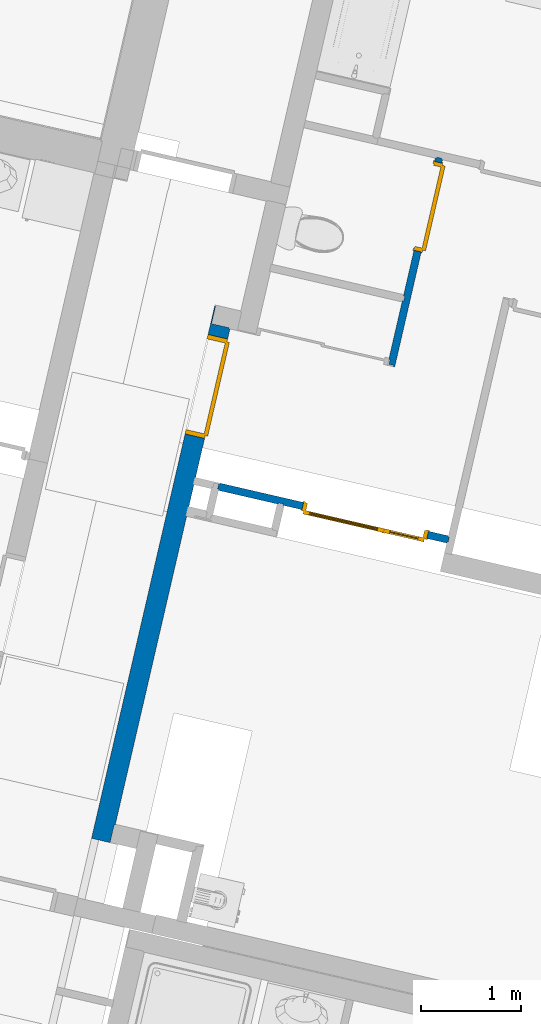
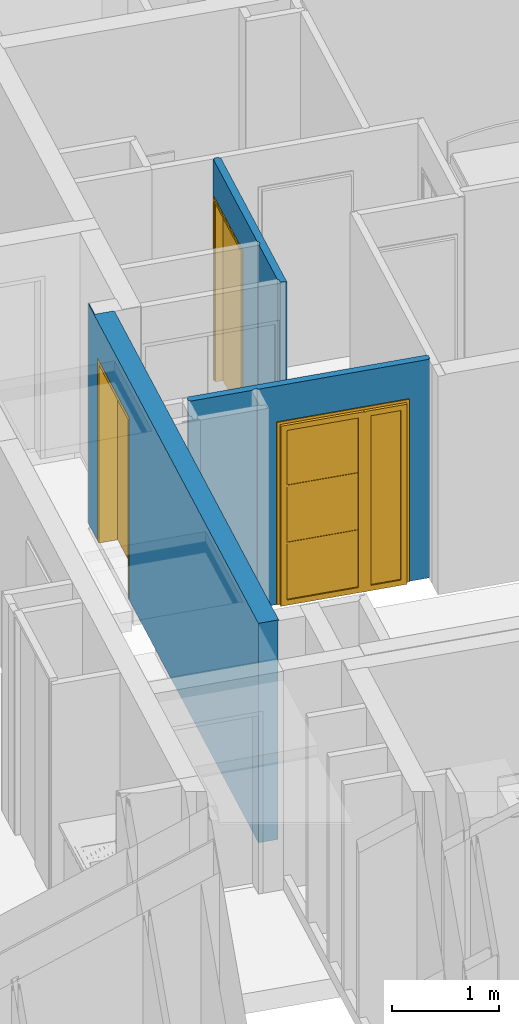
# One storey, part 27 of 119: 3 doors, 3 walls, 3 openings.
"""IFC2X3 building model written with IfcOpenShell, lengths in metres."""

from ifc_helpers import new_model, entity, si_unit, converted_unit, derived_unit, money_unit, direction, frame, origin_with_axes, place, context, subcontext, project, spatial, faceted_brep, source, transform, mapped, material, material_list, type_object, element, fill, save


model = new_model("IFC2X3")

# Units and contexts
model_context = context("Model", 3, precision=1e-05, world=origin_with_axes(), true_north=direction((0.0, 1.0)))
body_context = subcontext(model_context, "Body", "Model", "MODEL_VIEW")
ifc_project = project(units=[si_unit("LENGTHUNIT", "METRE"), si_unit("AREAUNIT", "SQUARE_METRE"), si_unit("VOLUMEUNIT", "CUBIC_METRE"), converted_unit("PLANEANGLEUNIT", "DEGREE", entity("IfcPlaneAngleMeasure", 0.0174532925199), si_unit("PLANEANGLEUNIT", "RADIAN"), dimensions=[0, 0, 0, 0, 0, 0, 0]), si_unit("SOLIDANGLEUNIT", "STERADIAN"), money_unit("EUR"), converted_unit("TIMEUNIT", "Year", entity("IfcTimeMeasure", 31556926.0), si_unit("TIMEUNIT", "SECOND"), dimensions=[0, 0, 1, 0, 0, 0, 0]), si_unit("MASSUNIT", "GRAM", prefix="KILO"), si_unit("THERMODYNAMICTEMPERATUREUNIT", "DEGREE_CELSIUS"), si_unit("LUMINOUSINTENSITYUNIT", "LUMEN"), si_unit("ENERGYUNIT", "JOULE", prefix="MEGA"), derived_unit("THERMALCONDUCTANCEUNIT", [(si_unit("POWERUNIT", "WATT"), 1), (si_unit("LENGTHUNIT", "METRE"), -1), (si_unit("THERMODYNAMICTEMPERATUREUNIT", "KELVIN"), -1)]), derived_unit("SPECIFICHEATCAPACITYUNIT", [(si_unit("ENERGYUNIT", "JOULE"), 1), (si_unit("MASSUNIT", "GRAM", prefix="KILO"), -1), (si_unit("THERMODYNAMICTEMPERATUREUNIT", "KELVIN"), -1)]), derived_unit("MASSDENSITYUNIT", [(si_unit("MASSUNIT", "GRAM", prefix="KILO"), 1), (si_unit("VOLUMEUNIT", "CUBIC_METRE"), -1)])], contexts=[model_context])

# Site, building, storey
site_placement = place(None, origin_with_axes())
site = spatial("IfcSite", under=ifc_project, at=site_placement, Name="Site", CompositionType="ELEMENT")
building_placement = place(site_placement, origin_with_axes())
building = spatial("IfcBuilding", under=site, at=building_placement, Name="Bâtiment", CompositionType="ELEMENT")
storey_placement = place(building_placement, origin_with_axes())
storey = spatial("IfcBuildingStorey", under=building, at=storey_placement, Name="Rez-de-chaussée", CompositionType="ELEMENT", Elevation=0.0)

# Wall, opening, door
ifc_material_1 = material(Name="Finition int - Plaque de plâtre")
ifc_material_2 = material(Name="Isolation - Laine de roche")
ifc_material_list_1 = material_list([ifc_material_1, ifc_material_2, ifc_material_1])
wall_type_1 = type_object("IfcWallType", Name="3 - Cloison 72mm Placostil 74", PredefinedType="USERDEFINED")
wall_1_placement = place(storey_placement, frame((-7.0248799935, 8.30326196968, 0.0), z_axis=(0.0, 0.0, 1.0), x_axis=(0.974387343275, -0.224876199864, 0.0)))
wall_1 = element("IfcWall", 1, at=wall_1_placement, inside=storey, type_object=wall_type_1, material=ifc_material_list_1, Name="Cloison Placostil 72/48", ObjectType="PARTITIONING", context=body_context, shape_type="Brep", body=[
    faceted_brep([(0.855399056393, 0.074, 2.08), (0.855399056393, 0.074, 0.0), (0.0, 0.074, 0.0), (0.0, 0.074, 2.5), (2.33936525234, 0.074, 2.5), (2.33936525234, 0.074, 0.0), (2.13539905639, 0.074, 0.0), (2.13539905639, 0.074, 2.08), (0.855399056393, 0.061, 2.08), (0.855399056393, 0.061, 0.0), (0.0, 0.061, 0.0), (0.0, 0.061, 2.5), (2.33936525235, 0.061, 2.5), (2.33936525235, 0.061, 0.0), (2.13539905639, 0.061, 0.0), (2.13539905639, 0.061, 2.08)], [[[0, 1, 2, 3, 4, 5, 6, 7]], [[1, 0, 8, 9]], [[1, 9, 10, 2]], [[11, 3, 2, 10]], [[3, 11, 12, 4]], [[12, 13, 5, 4]], [[14, 6, 5, 13]], [[7, 6, 14, 15]], [[0, 7, 15, 8]], [[15, 14, 13, 12, 11, 10, 9, 8]]]),
    faceted_brep([(0.855399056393, 0.061, 2.08), (0.855399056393, 0.0610000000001, 0.0), (-0.013000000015, 0.0610000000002, 0.0), (-0.013000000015, 0.0610000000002, 2.5), (2.35236525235, 0.061, 2.5), (2.35236525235, 0.061, 0.0), (2.13539905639, 0.061, 0.0), (2.13539905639, 0.061, 2.08), (0.855399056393, 0.013, 2.08), (0.855399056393, 0.013, 0.0), (-0.0130000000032, 0.013, 0.0), (-0.0130000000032, 0.013, 2.5), (2.35236525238, 0.013, 2.5), (2.35236525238, 0.013, 0.0), (2.13539905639, 0.013, 0.0), (2.13539905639, 0.013, 2.08)], [[[0, 1, 2, 3, 4, 5, 6, 7]], [[1, 0, 8, 9]], [[1, 9, 10, 2]], [[11, 3, 2, 10]], [[3, 11, 12, 4]], [[12, 13, 5, 4]], [[14, 6, 5, 13]], [[7, 6, 14, 15]], [[0, 7, 15, 8]], [[15, 14, 13, 12, 11, 10, 9, 8]]]),
    faceted_brep([(0.612999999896, 0.013, 0.0), (0.0, 0.013, 0.0), (0.0, 0.013, 2.5), (0.612999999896, 0.013, 2.5), (0.612999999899, 0.0, 0.0), (0.0, 0.0, 0.0), (0.0, 0.0, 2.5), (0.612999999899, 0.0, 2.5)], [[[0, 1, 2, 3]], [[4, 5, 1, 0]], [[5, 6, 2, 1]], [[3, 2, 6, 7]], [[3, 7, 4, 0]], [[7, 6, 5, 4]]]),
    faceted_brep([(0.855399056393, 0.013, 2.08), (0.855399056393, 0.013, 0.0), (0.660999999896, 0.013, 0.0), (0.660999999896, 0.013, 2.5), (2.33936525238, 0.013, 2.5), (2.33936525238, 0.013, 0.0), (2.13539905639, 0.013, 0.0), (2.13539905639, 0.013, 2.08), (0.855399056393, 0.0, 2.08), (0.855399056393, 0.0, 0.0), (0.660999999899, 0.0, 0.0), (0.660999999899, 0.0, 2.5), (2.33936525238, 0.0, 2.5), (2.33936525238, 0.0, 0.0), (2.13539905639, 0.0, 0.0), (2.13539905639, 0.0, 2.08)], [[[0, 1, 2, 3, 4, 5, 6, 7]], [[1, 0, 8, 9]], [[1, 9, 10, 2]], [[10, 11, 3, 2]], [[11, 12, 4, 3]], [[13, 5, 4, 12]], [[14, 6, 5, 13]], [[7, 6, 14, 15]], [[0, 7, 15, 8]], [[15, 14, 13, 12, 11, 10, 9, 8]]]),
])
opening_1_placement = place(wall_1_placement, frame((1.49539905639, 0.0, 0.0), z_axis=(0.0, 0.0, 1.0), x_axis=(1.0, 0.0, 0.0)))
opening_1 = element("IfcOpeningElement", 2, at=opening_1_placement, cuts=wall_1, Name="Porte 120x204 bois alvéolaire", context=body_context, shape_type="Brep", body=[
    faceted_brep([(-0.64, 0.074, 0.0), (0.64, 0.074, 0.0), (0.64, -0.074, 0.0), (-0.64, -0.074, 0.0), (-0.64, 0.074, 2.08), (0.64, 0.074, 2.08), (0.64, -0.074, 2.08), (-0.64, -0.074, 2.08)], [[[0, 1, 2, 3]], [[0, 4, 5, 1]], [[1, 5, 6, 2]], [[3, 2, 6, 7]], [[4, 0, 3, 7]], [[5, 4, 7, 6]]]),
])
door_style_1 = type_object("IfcDoorStyle", Name="Porte int générique 2019", ConstructionType="NOTDEFINED", OperationType="DOUBLE_DOOR_SINGLE_SWING", ParameterTakesPrecedence=False, Sizeable=False)
shared_shape_1 = source(origin_with_axes(), body_context, "Body", "Brep", [
    faceted_brep([(0.64, -0.006, 0.0), (0.6, -0.006, 0.0), (0.6, -0.006, 2.04), (-0.6, -0.006, 2.04), (-0.6, -0.006, 0.0), (-0.64, -0.006, 0.0), (-0.64, -0.006, 2.08), (0.64, -0.006, 2.08), (0.64, -0.08, 0.0), (0.6, -0.08, 0.0), (0.6, -0.08, 2.04), (-0.6, -0.08, 2.04), (-0.6, -0.08, 0.0), (-0.64, -0.08, 0.0), (-0.64, -0.08, 2.08), (0.64, -0.08, 2.08)], [[[0, 1, 2, 3, 4, 5, 6, 7]], [[0, 8, 9, 1]], [[1, 9, 10, 2]], [[2, 10, 11, 3]], [[3, 11, 12, 4]], [[5, 4, 12, 13]], [[14, 6, 5, 13]], [[15, 7, 6, 14]], [[8, 0, 7, 15]], [[9, 8, 15, 14, 13, 12, 11, 10]]]),
    faceted_brep([(0.65, -0.006, 0.0), (0.65, 0.004, 0.0), (0.65, 0.004, 2.09), (0.65, -0.006, 2.09), (0.62, -0.006, 0.0), (0.62, 0.004, 0.0), (0.62, 0.004, 2.06), (-0.62, 0.004, 2.06), (-0.62, 0.004, 0.0), (-0.65, 0.004, 0.0), (-0.65, 0.004, 2.09), (-0.65, -0.006, 2.09), (-0.65, -0.006, 0.0), (-0.62, -0.006, 0.0), (-0.62, -0.006, 2.06), (0.62, -0.006, 2.06)], [[[0, 1, 2, 3]], [[0, 4, 5, 1]], [[1, 5, 6, 7, 8, 9, 10, 2]], [[3, 2, 10, 11]], [[4, 0, 3, 11, 12, 13, 14, 15]], [[5, 4, 15, 6]], [[6, 15, 14, 7]], [[7, 14, 13, 8]], [[12, 9, 8, 13]], [[11, 10, 9, 12]]]),
    faceted_brep([(0.65, -0.09, 0.0), (0.65, -0.08, 0.0), (0.65, -0.08, 2.09), (0.65, -0.09, 2.09), (0.62, -0.09, 0.0), (0.62, -0.08, 0.0), (0.62, -0.08, 2.06), (-0.62, -0.08, 2.06), (-0.62, -0.08, 0.0), (-0.65, -0.08, 0.0), (-0.65, -0.08, 2.09), (-0.65, -0.09, 2.09), (-0.65, -0.09, 0.0), (-0.62, -0.09, 0.0), (-0.62, -0.09, 2.06), (0.62, -0.09, 2.06)], [[[0, 1, 2, 3]], [[0, 4, 5, 1]], [[1, 5, 6, 7, 8, 9, 10, 2]], [[3, 2, 10, 11]], [[4, 0, 3, 11, 12, 13, 14, 15]], [[5, 4, 15, 6]], [[6, 15, 14, 7]], [[7, 14, 13, 8]], [[12, 9, 8, 13]], [[11, 10, 9, 12]]]),
    faceted_brep([(-0.6175, 0.024, 2.06), (-0.2025, 0.024, 2.06), (-0.2025, 0.024, 0.0), (-0.6175, 0.024, 0.0), (-0.5575, 0.024, 0.06), (-0.2625, 0.024, 0.06), (-0.2625, 0.024, 2.0), (-0.5575, 0.024, 2.0), (-0.6175, 0.014, 2.06), (-0.2025, 0.014, 2.06), (-0.2025, 0.014, 0.0), (-0.6175, 0.014, 0.0), (-0.5575, 0.014, 0.06), (-0.2625, 0.014, 0.06), (-0.2625, 0.014, 2.0), (-0.5575, 0.014, 2.0)], [[[0, 1, 2, 3], [4, 5, 6, 7]], [[0, 8, 9, 1]], [[1, 9, 10, 2]], [[2, 10, 11, 3]], [[3, 11, 8, 0]], [[12, 13, 5, 4]], [[13, 14, 6, 5]], [[14, 15, 7, 6]], [[15, 12, 4, 7]], [[10, 9, 8, 11], [12, 15, 14, 13]]]),
    faceted_brep([(-0.6175, 0.014, 2.06), (-0.2025, 0.014, 2.06), (-0.2025, 0.014, 0.0), (-0.6175, 0.014, 0.0), (-0.5575, 0.014, 0.06), (-0.2625, 0.014, 0.06), (-0.2625, 0.014, 2.0), (-0.5575, 0.014, 2.0), (-0.6175, 0.004, 2.06), (-0.2025, 0.004, 2.06), (-0.2025, 0.004, 0.0), (-0.6175, 0.004, 0.0), (-0.5575, 0.004, 0.06), (-0.2625, 0.004, 0.06), (-0.2625, 0.004, 2.0), (-0.5575, 0.004, 2.0)], [[[0, 1, 2, 3], [4, 5, 6, 7]], [[0, 8, 9, 1]], [[1, 9, 10, 2]], [[2, 10, 11, 3]], [[3, 11, 8, 0]], [[12, 13, 5, 4]], [[13, 14, 6, 5]], [[14, 15, 7, 6]], [[15, 12, 4, 7]], [[10, 9, 8, 11], [12, 15, 14, 13]]]),
    faceted_brep([(-0.6175, 0.034, 0.0), (-0.2025, 0.034, 0.0), (-0.2025, 0.024, 0.0), (-0.6175, 0.024, 0.0), (-0.6175, 0.034, 2.06), (-0.2025, 0.034, 2.06), (-0.5575, 0.034, 0.06), (-0.2625, 0.034, 0.06), (-0.2625, 0.034, 2.0), (-0.5575, 0.034, 2.0), (-0.2025, 0.024, 2.06), (-0.6175, 0.024, 2.06), (-0.5575, 0.024, 0.06), (-0.5575, 0.024, 2.0), (-0.2625, 0.024, 2.0), (-0.2625, 0.024, 0.06)], [[[0, 1, 2, 3]], [[0, 4, 5, 1], [6, 7, 8, 9]], [[1, 5, 10, 2]], [[3, 2, 10, 11], [12, 13, 14, 15]], [[4, 0, 3, 11]], [[5, 4, 11, 10]], [[7, 6, 12, 15]], [[8, 7, 15, 14]], [[9, 8, 14, 13]], [[6, 9, 13, 12]]]),
    faceted_brep([(-0.6175, 0.004, 0.0), (-0.2025, 0.004, 0.0), (-0.2025, -0.006, 0.0), (-0.6175, -0.006, 0.0), (-0.6175, 0.004, 2.06), (-0.2025, 0.004, 2.06), (-0.5575, 0.004, 0.06), (-0.2625, 0.004, 0.06), (-0.2625, 0.004, 2.0), (-0.5575, 0.004, 2.0), (-0.2025, -0.006, 2.06), (-0.6175, -0.006, 2.06), (-0.5575, -0.006, 0.06), (-0.5575, -0.006, 2.0), (-0.2625, -0.006, 2.0), (-0.2625, -0.006, 0.06)], [[[0, 1, 2, 3]], [[0, 4, 5, 1], [6, 7, 8, 9]], [[1, 5, 10, 2]], [[3, 2, 10, 11], [12, 13, 14, 15]], [[4, 0, 3, 11]], [[5, 4, 11, 10]], [[7, 6, 12, 15]], [[8, 7, 15, 14]], [[9, 8, 14, 13]], [[6, 9, 13, 12]]]),
    faceted_brep([(-0.5575, 0.019, 0.06), (-0.2625, 0.019, 0.06), (-0.2625, 0.009, 0.06), (-0.5575, 0.009, 0.06), (-0.5575, 0.019, 2.0), (-0.2625, 0.019, 2.0), (-0.2625, 0.009, 2.0), (-0.5575, 0.009, 2.0)], [[[0, 1, 2, 3]], [[0, 4, 5, 1]], [[1, 5, 6, 2]], [[3, 2, 6, 7]], [[4, 0, 3, 7]], [[5, 4, 7, 6]]]),
    faceted_brep([(0.62, 0.024, 2.06), (0.62, 0.024, 0.0), (-0.2, 0.024, 0.0), (-0.2, 0.024, 2.06), (0.56, 0.024, 0.693333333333), (-0.14, 0.024, 0.693333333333), (-0.14, 0.024, 0.06), (0.56, 0.024, 0.06), (0.56, 0.024, 0.713333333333), (0.56, 0.024, 1.34666666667), (-0.14, 0.024, 1.34666666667), (-0.14, 0.024, 0.713333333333), (-0.14, 0.024, 1.36666666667), (0.56, 0.024, 1.36666666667), (0.56, 0.024, 2.0), (-0.14, 0.024, 2.0), (0.62, 0.014, 2.06), (0.62, 0.014, 0.0), (-0.2, 0.014, 0.0), (-0.2, 0.014, 2.06), (0.56, 0.014, 0.693333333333), (-0.14, 0.014, 0.693333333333), (-0.14, 0.014, 0.06), (0.56, 0.014, 0.06), (0.56, 0.014, 1.34666666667), (0.56, 0.014, 0.713333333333), (-0.14, 0.014, 1.34666666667), (-0.14, 0.014, 0.713333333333), (-0.14, 0.014, 1.36666666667), (0.56, 0.014, 1.36666666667), (0.56, 0.014, 2.0), (-0.14, 0.014, 2.0)], [[[0, 1, 2, 3], [4, 5, 6, 7], [8, 9, 10, 11], [12, 13, 14, 15]], [[1, 0, 16, 17]], [[2, 1, 17, 18]], [[3, 2, 18, 19]], [[0, 3, 19, 16]], [[5, 4, 20, 21]], [[6, 5, 21, 22]], [[7, 6, 22, 23]], [[4, 7, 23, 20]], [[24, 9, 8, 25]], [[26, 10, 9, 24]], [[27, 11, 10, 26]], [[25, 8, 11, 27]], [[28, 29, 13, 12]], [[29, 30, 14, 13]], [[30, 31, 15, 14]], [[31, 28, 12, 15]], [[18, 17, 16, 19], [20, 23, 22, 21], [26, 24, 25, 27], [28, 31, 30, 29]]]),
    faceted_brep([(0.62, 0.014, 2.06), (0.62, 0.014, 0.0), (-0.2, 0.014, 0.0), (-0.2, 0.014, 2.06), (0.56, 0.014, 0.693333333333), (-0.14, 0.014, 0.693333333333), (-0.14, 0.014, 0.06), (0.56, 0.014, 0.06), (0.56, 0.014, 0.713333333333), (0.56, 0.014, 1.34666666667), (-0.14, 0.014, 1.34666666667), (-0.14, 0.014, 0.713333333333), (-0.14, 0.014, 1.36666666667), (0.56, 0.014, 1.36666666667), (0.56, 0.014, 2.0), (-0.14, 0.014, 2.0), (0.62, 0.004, 2.06), (0.62, 0.004, 0.0), (-0.2, 0.004, 0.0), (-0.2, 0.004, 2.06), (0.56, 0.004, 0.693333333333), (-0.14, 0.004, 0.693333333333), (-0.14, 0.004, 0.06), (0.56, 0.004, 0.06), (0.56, 0.004, 1.34666666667), (0.56, 0.004, 0.713333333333), (-0.14, 0.004, 1.34666666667), (-0.14, 0.004, 0.713333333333), (-0.14, 0.004, 1.36666666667), (0.56, 0.004, 1.36666666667), (0.56, 0.004, 2.0), (-0.14, 0.004, 2.0)], [[[0, 1, 2, 3], [4, 5, 6, 7], [8, 9, 10, 11], [12, 13, 14, 15]], [[1, 0, 16, 17]], [[2, 1, 17, 18]], [[3, 2, 18, 19]], [[0, 3, 19, 16]], [[5, 4, 20, 21]], [[6, 5, 21, 22]], [[7, 6, 22, 23]], [[4, 7, 23, 20]], [[24, 9, 8, 25]], [[26, 10, 9, 24]], [[27, 11, 10, 26]], [[25, 8, 11, 27]], [[28, 29, 13, 12]], [[29, 30, 14, 13]], [[30, 31, 15, 14]], [[31, 28, 12, 15]], [[18, 17, 16, 19], [20, 23, 22, 21], [26, 24, 25, 27], [28, 31, 30, 29]]]),
    faceted_brep([(0.62, 0.034, 0.0), (0.62, 0.024, 0.0), (-0.2, 0.024, 0.0), (-0.2, 0.034, 0.0), (0.62, 0.034, 2.06), (0.62, 0.024, 2.06), (-0.2, 0.024, 2.06), (0.56, 0.024, 0.06), (-0.14, 0.024, 0.06), (-0.14, 0.024, 2.0), (0.56, 0.024, 2.0), (-0.2, 0.034, 2.06), (0.56, 0.034, 0.06), (0.56, 0.034, 2.0), (-0.14, 0.034, 2.0), (-0.14, 0.034, 0.06)], [[[0, 1, 2, 3]], [[4, 5, 1, 0]], [[1, 5, 6, 2], [7, 8, 9, 10]], [[3, 2, 6, 11]], [[0, 3, 11, 4], [12, 13, 14, 15]], [[11, 6, 5, 4]], [[15, 8, 7, 12]], [[14, 9, 8, 15]], [[13, 10, 9, 14]], [[12, 7, 10, 13]]]),
    faceted_brep([(0.62, 0.004, 0.0), (0.62, -0.006, 0.0), (-0.2, -0.006, 0.0), (-0.2, 0.004, 0.0), (0.62, 0.004, 2.06), (0.62, -0.006, 2.06), (-0.2, -0.006, 2.06), (0.56, -0.006, 0.06), (-0.14, -0.006, 0.06), (-0.14, -0.006, 2.0), (0.56, -0.006, 2.0), (-0.2, 0.004, 2.06), (0.56, 0.004, 0.06), (0.56, 0.004, 2.0), (-0.14, 0.004, 2.0), (-0.14, 0.004, 0.06)], [[[0, 1, 2, 3]], [[4, 5, 1, 0]], [[1, 5, 6, 2], [7, 8, 9, 10]], [[3, 2, 6, 11]], [[0, 3, 11, 4], [12, 13, 14, 15]], [[11, 6, 5, 4]], [[15, 8, 7, 12]], [[14, 9, 8, 15]], [[13, 10, 9, 14]], [[12, 7, 10, 13]]]),
    faceted_brep([(0.56, 0.019, 0.06), (0.56, 0.009, 0.06), (-0.14, 0.009, 0.06), (-0.14, 0.019, 0.06), (0.56, 0.019, 0.693333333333), (0.56, 0.009, 0.693333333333), (-0.14, 0.009, 0.693333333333), (-0.14, 0.019, 0.693333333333)], [[[0, 1, 2, 3]], [[4, 5, 1, 0]], [[1, 5, 6, 2]], [[3, 2, 6, 7]], [[0, 3, 7, 4]], [[7, 6, 5, 4]]]),
    faceted_brep([(0.56, 0.019, 0.713333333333), (0.56, 0.009, 0.713333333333), (-0.14, 0.009, 0.713333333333), (-0.14, 0.019, 0.713333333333), (0.56, 0.019, 1.34666666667), (0.56, 0.009, 1.34666666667), (-0.14, 0.009, 1.34666666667), (-0.14, 0.019, 1.34666666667)], [[[0, 1, 2, 3]], [[4, 5, 1, 0]], [[1, 5, 6, 2]], [[3, 2, 6, 7]], [[0, 3, 7, 4]], [[7, 6, 5, 4]]]),
    faceted_brep([(0.56, 0.019, 1.36666666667), (0.56, 0.009, 1.36666666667), (-0.14, 0.009, 1.36666666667), (-0.14, 0.019, 1.36666666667), (0.56, 0.019, 2.0), (0.56, 0.009, 2.0), (-0.14, 0.009, 2.0), (-0.14, 0.019, 2.0)], [[[0, 1, 2, 3]], [[4, 5, 1, 0]], [[1, 5, 6, 2]], [[3, 2, 6, 7]], [[0, 3, 7, 4]], [[7, 6, 5, 4]]]),
    faceted_brep([(-0.185, 0.039, 0.0), (-0.215, 0.039, 0.0), (-0.215, 0.039, 2.06), (-0.185, 0.039, 2.06), (-0.185, 0.034, 0.0), (-0.215, 0.034, 0.0), (-0.215, 0.034, 2.06), (-0.185, 0.034, 2.06)], [[[0, 1, 2, 3]], [[1, 0, 4, 5]], [[2, 1, 5, 6]], [[3, 2, 6, 7]], [[0, 3, 7, 4]], [[5, 4, 7, 6]]]),
])
door_1_placement = place(opening_1_placement, frame((0.6, 0.0, 0.0), z_axis=(0.0, 0.0, 1.0), x_axis=(-1.0, 0.0, 0.0)))
door_1 = element("IfcDoor", 3, at=door_1_placement, inside=storey, type_object=door_style_1, Name="Porte 120x204 bois alvéolaire", ObjectType="DOOR", OverallHeight=2.04, OverallWidth=1.2, context=body_context, shape_type="MappedRepresentation", body=[
    mapped(shared_shape_1, transform((0.6, 0.006, 0.0))),
])
fill(opening_1, door_1)

wall_2_placement = place(storey_placement, frame((-4.78781557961, 11.6056353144, 0.0), z_axis=(0.0, 0.0, 1.0), x_axis=(-0.224876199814, -0.974387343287, 0.0)))
wall_2 = element("IfcWall", 4, at=wall_2_placement, inside=storey, type_object=wall_type_1, material=ifc_material_list_1, Name="Cloison Placostil 72/48", ObjectType="PARTITIONING", context=body_context, shape_type="Brep", body=[
    faceted_brep([(0.944650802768, 0.0, 0.0), (0.944650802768, 0.0, 2.08), (0.034650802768, 0.0, 2.08), (0.034650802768, 0.0, 0.0), (0.0, 0.0, 0.0), (0.0, 0.0, 2.5), (2.12400000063, 0.0, 2.5), (2.12400000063, 0.0, 0.0), (0.944650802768, -0.013, 0.0), (0.944650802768, -0.013, 2.08), (0.034650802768, -0.013, 2.08), (0.034650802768, -0.013, 0.0), (0.0, -0.013, 0.0), (0.0, -0.013, 2.5), (2.12400000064, -0.013, 2.5), (2.12400000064, -0.013, 0.0)], [[[0, 1, 2, 3, 4, 5, 6, 7]], [[1, 0, 8, 9]], [[2, 1, 9, 10]], [[3, 2, 10, 11]], [[3, 11, 12, 4]], [[13, 5, 4, 12]], [[6, 5, 13, 14]], [[14, 15, 7, 6]], [[8, 0, 7, 15]], [[9, 8, 15, 14, 13, 12, 11, 10]]]),
    faceted_brep([(0.944650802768, -0.013, 0.0), (0.944650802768, -0.013, 2.08), (0.034650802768, -0.013, 2.08), (0.034650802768, -0.013, 0.0), (-0.0130000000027, -0.013, 0.0), (-0.0130000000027, -0.013, 2.5), (2.11100000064, -0.013, 2.5), (2.11100000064, -0.013, 0.0), (0.944650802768, -0.061, 0.0), (0.944650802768, -0.061, 2.08), (0.0346508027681, -0.061, 2.08), (0.0346508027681, -0.061, 0.0), (-0.0130000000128, -0.061, 0.0), (-0.0130000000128, -0.061, 2.5), (2.11100000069, -0.061, 2.5), (2.11100000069, -0.061, 0.0)], [[[0, 1, 2, 3, 4, 5, 6, 7]], [[1, 0, 8, 9]], [[2, 1, 9, 10]], [[3, 2, 10, 11]], [[3, 11, 12, 4]], [[13, 5, 4, 12]], [[6, 5, 13, 14]], [[14, 15, 7, 6]], [[8, 0, 7, 15]], [[9, 8, 15, 14, 13, 12, 11, 10]]]),
    faceted_brep([(0.944650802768, -0.061, 0.0), (0.944650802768, -0.061, 2.08), (0.0346508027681, -0.061, 2.08), (0.0346508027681, -0.061, 0.0), (0.0, -0.061, 0.0), (0.0, -0.061, 2.5), (1.4130000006, -0.061, 2.5), (1.4130000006, -0.061, 0.0), (0.944650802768, -0.074, 0.0), (0.944650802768, -0.074, 2.08), (0.034650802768, -0.074, 2.08), (0.034650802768, -0.074, 0.0), (0.0, -0.074, 0.0), (0.0, -0.074, 2.5), (1.4130000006, -0.074, 2.5), (1.4130000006, -0.074, 0.0)], [[[0, 1, 2, 3, 4, 5, 6, 7]], [[1, 0, 8, 9]], [[2, 1, 9, 10]], [[3, 2, 10, 11]], [[3, 11, 12, 4]], [[13, 5, 4, 12]], [[6, 5, 13, 14]], [[14, 15, 7, 6]], [[8, 0, 7, 15]], [[9, 8, 15, 14, 13, 12, 11, 10]]]),
    faceted_brep([(2.06300000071, -0.074, 2.5), (2.06300000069, -0.061, 2.5), (1.4610000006, -0.061, 2.5), (1.4610000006, -0.074, 2.5), (2.06300000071, -0.074, 0.0), (2.06300000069, -0.061, 0.0), (1.4610000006, -0.061, 0.0), (1.4610000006, -0.074, 0.0)], [[[0, 1, 2, 3]], [[1, 0, 4, 5]], [[1, 5, 6, 2]], [[7, 3, 2, 6]], [[4, 0, 3, 7]], [[5, 4, 7, 6]]]),
])
opening_2_placement = place(wall_2_placement, frame((0.489650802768, 0.0, 0.0), z_axis=(0.0, 0.0, 1.0), x_axis=(1.0, 0.0, 0.0)))
opening_2 = element("IfcOpeningElement", 5, at=opening_2_placement, cuts=wall_2, Name="Porte 83x204 bois alvéolaire", context=body_context, shape_type="Brep", body=[
    faceted_brep([(-0.455, 0.074, 0.0), (0.455, 0.074, 0.0), (0.455, -0.074, 0.0), (-0.455, -0.074, 0.0), (-0.455, 0.074, 2.08), (0.455, 0.074, 2.08), (0.455, -0.074, 2.08), (-0.455, -0.074, 2.08)], [[[0, 1, 2, 3]], [[0, 4, 5, 1]], [[1, 5, 6, 2]], [[3, 2, 6, 7]], [[4, 0, 3, 7]], [[5, 4, 7, 6]]]),
])
door_style_2 = type_object("IfcDoorStyle", Name="Porte int générique 2019", ConstructionType="NOTDEFINED", OperationType="SINGLE_SWING_LEFT", ParameterTakesPrecedence=False, Sizeable=False)
shared_shape_2 = source(origin_with_axes(), body_context, "Body", "Brep", [
    faceted_brep([(-0.455, 0.0, 0.0), (-0.455, 0.0, 2.08), (0.455, 0.0, 2.08), (0.455, 0.0, 0.0), (0.415, 0.0, 0.0), (0.415, 0.0, 2.04), (-0.415, 0.0, 2.04), (-0.415, 0.0, 0.0), (-0.455, -0.074, 0.0), (-0.455, -0.074, 2.08), (0.455, -0.074, 2.08), (0.455, -0.074, 0.0), (0.415, -0.074, 0.0), (0.415, -0.074, 2.04), (-0.415, -0.074, 2.04), (-0.415, -0.074, 0.0)], [[[0, 1, 2, 3, 4, 5, 6, 7]], [[8, 9, 1, 0]], [[9, 10, 2, 1]], [[10, 11, 3, 2]], [[3, 11, 12, 4]], [[5, 4, 12, 13]], [[6, 5, 13, 14]], [[7, 6, 14, 15]], [[0, 7, 15, 8]], [[15, 14, 13, 12, 11, 10, 9, 8]]]),
    faceted_brep([(-0.465, 0.0, 0.0), (-0.465, 0.0, 2.09), (-0.465, 0.01, 2.09), (-0.465, 0.01, 0.0), (-0.435, 0.0, 0.0), (-0.435, 0.0, 2.06), (0.435, 0.0, 2.06), (0.435, 0.0, 0.0), (0.465, 0.0, 0.0), (0.465, 0.0, 2.09), (0.465, 0.01, 2.09), (0.465, 0.01, 0.0), (0.435, 0.01, 0.0), (0.435, 0.01, 2.06), (-0.435, 0.01, 2.06), (-0.435, 0.01, 0.0)], [[[0, 1, 2, 3]], [[4, 5, 6, 7, 8, 9, 1, 0]], [[1, 9, 10, 2]], [[3, 2, 10, 11, 12, 13, 14, 15]], [[0, 3, 15, 4]], [[15, 14, 5, 4]], [[14, 13, 6, 5]], [[13, 12, 7, 6]], [[8, 7, 12, 11]], [[9, 8, 11, 10]]]),
    faceted_brep([(-0.465, -0.084, 0.0), (-0.465, -0.084, 2.09), (-0.465, -0.074, 2.09), (-0.465, -0.074, 0.0), (-0.435, -0.084, 0.0), (-0.435, -0.084, 2.06), (0.435, -0.084, 2.06), (0.435, -0.084, 0.0), (0.465, -0.084, 0.0), (0.465, -0.084, 2.09), (0.465, -0.074, 2.09), (0.465, -0.074, 0.0), (0.435, -0.074, 0.0), (0.435, -0.074, 2.06), (-0.435, -0.074, 2.06), (-0.435, -0.074, 0.0)], [[[0, 1, 2, 3]], [[4, 5, 6, 7, 8, 9, 1, 0]], [[1, 9, 10, 2]], [[3, 2, 10, 11, 12, 13, 14, 15]], [[0, 3, 15, 4]], [[15, 14, 5, 4]], [[14, 13, 6, 5]], [[13, 12, 7, 6]], [[8, 7, 12, 11]], [[9, 8, 11, 10]]]),
    faceted_brep([(-0.435, 0.04, 0.0), (0.435, 0.04, 0.0), (0.435, 0.0, 0.0), (-0.435, 0.0, 0.0), (-0.435, 0.04, 2.06), (0.435, 0.04, 2.06), (0.435, 0.0, 2.06), (-0.435, 0.0, 2.06)], [[[0, 1, 2, 3]], [[0, 4, 5, 1]], [[1, 5, 6, 2]], [[3, 2, 6, 7]], [[4, 0, 3, 7]], [[5, 4, 7, 6]]]),
])
door_2_placement = place(opening_2_placement, frame((-0.415, 0.0, 0.0), z_axis=(0.0, 0.0, 1.0), x_axis=(1.0, 0.0, 0.0)))
door_2 = element("IfcDoor", 6, at=door_2_placement, inside=storey, type_object=door_style_2, Name="Porte 83x204 bois alvéolaire", ObjectType="DOOR", OverallHeight=2.04, OverallWidth=0.83, context=body_context, shape_type="MappedRepresentation", body=[
    mapped(shared_shape_2, transform((0.415, 0.0, 0.0))),
])
fill(opening_2, door_2)

ifc_material_3 = material(Name="Finition int - Enduit plâtre")
ifc_material_4 = material(Name="Béton")
ifc_material_list_2 = material_list([ifc_material_3, ifc_material_4, ifc_material_3])
wall_type_2 = type_object("IfcWallType", Name="2 - Murs Béton 18 + Enduit 2 Faces 200", PredefinedType="USERDEFINED")
wall_3_placement = place(storey_placement, frame((-7.06071456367, 10.1556173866, 0.0), z_axis=(0.0, 0.0, 1.0), x_axis=(-0.22536848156, -0.974273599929, 0.0)))
wall_3 = element("IfcWall", 7, at=wall_3_placement, inside=storey, type_object=wall_type_2, material=ifc_material_list_2, Name="M_Ext-008", ObjectType="SOLIDWALL", context=body_context, shape_type="Brep", body=[
    faceted_brep([(1.32275364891, 0.2, 0.0), (1.32275364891, 0.2, 2.085), (0.302753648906, 0.2, 2.085), (0.302753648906, 0.2, 0.0), (0.199898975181, 0.2, 0.0), (0.199898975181, 0.2, 2.51), (5.46837833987, 0.2, 2.51), (5.46837833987, 0.2, 2.5), (5.46827728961, 0.199999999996, 2.5), (5.28827726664, 0.2, 2.5), (5.28827726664, 0.2, 0.0), (1.32275364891, 0.19, 0.0), (1.32275364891, 0.19, 2.085), (0.302753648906, 0.19, 2.085), (0.302753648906, 0.19, 0.0), (0.199904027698, 0.19, 0.0), (0.199904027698, 0.19, 2.51), (5.46837833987, 0.19, 2.51), (5.46837833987, 0.19, 2.5), (5.46828234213, 0.189999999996, 2.5), (5.28828231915, 0.19, 2.5), (5.28828231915, 0.19, 0.0)], [[[0, 1, 2, 3, 4, 5, 6, 7, 8, 9, 10]], [[1, 0, 11, 12]], [[2, 1, 12, 13]], [[3, 2, 13, 14]], [[3, 14, 15, 4]], [[5, 4, 15, 16]], [[5, 16, 17, 6]], [[17, 18, 7, 6]], [[19, 8, 7, 18]], [[9, 8, 19, 20]], [[10, 9, 20, 21]], [[11, 0, 10, 21]], [[12, 11, 21, 20, 19, 18, 17, 16, 15, 14, 13]]]),
    faceted_brep([(1.32275364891, 0.19, 0.0), (1.32275364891, 0.19, 2.085), (0.302753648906, 0.19, 2.085), (0.302753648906, 0.19, 0.0), (0.189904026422, 0.19, 0.0), (0.189904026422, 0.19, 2.51), (5.46837833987, 0.19, 2.51), (5.46837833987, 0.19, 2.5), (5.46828234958, 0.19, 2.5), (5.46828234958, 0.19, 0.0), (1.32275364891, 0.01, 0.0), (1.32275364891, 0.00999999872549, 2.085), (0.302753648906, 0.00999999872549, 2.085), (0.302753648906, 0.01, 0.0), (0.189994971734, 0.01, 0.0), (0.189994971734, 0.01, 2.51), (5.46837581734, 0.00999999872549, 2.51), (5.46837329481, 0.00999999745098, 2.5), (5.46837329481, 0.01, 0.0)], [[[0, 1, 2, 3, 4, 5, 6, 7, 8, 9]], [[1, 0, 10, 11]], [[2, 1, 11, 12]], [[3, 2, 12, 13]], [[3, 13, 14, 4]], [[5, 4, 14, 15]], [[5, 15, 16, 6]], [[16, 17, 7, 6]], [[17, 8, 7]], [[9, 8, 17, 18]], [[10, 0, 9, 18]], [[11, 10, 18, 17, 16, 15, 14, 13, 12]]]),
    faceted_brep([(1.32275364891, 0.01, 0.0), (1.32275364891, 0.01, 2.085), (0.302753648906, 0.01, 2.085), (0.302753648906, 0.01, 0.0), (0.00999494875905, 0.01, 0.0), (0.00999494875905, 0.01, 2.51), (5.46837833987, 0.01, 2.51), (5.46837833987, 0.01, 2.5), (5.46837329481, 0.01, 0.0), (1.32275364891, 0.0, 0.0), (1.32275364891, 0.0, 2.085), (0.302753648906, 0.0, 2.085), (0.302753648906, 0.0, 0.0), (0.0100000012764, 0.0, 0.0), (0.0100000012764, 0.0, 2.51), (5.46837833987, 0.0, 2.51), (5.46837833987, 0.0, 2.5), (5.46837834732, 0.0, 0.0)], [[[0, 1, 2, 3, 4, 5, 6, 7, 8]], [[1, 0, 9, 10]], [[2, 1, 10, 11]], [[3, 2, 11, 12]], [[3, 12, 13, 4]], [[5, 4, 13, 14]], [[5, 14, 15, 6]], [[15, 16, 7, 6]], [[7, 16, 17, 8]], [[9, 0, 8, 17]], [[10, 9, 17, 16, 15, 14, 13, 12, 11]]]),
])
opening_3_placement = place(wall_3_placement, frame((0.812753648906, 0.0, 0.0), z_axis=(0.0, 0.0, 1.0), x_axis=(1.0, 0.0, 0.0)))
opening_3 = element("IfcOpeningElement", 8, at=opening_3_placement, cuts=wall_3, Name="Porte 93x204 bois blindée", context=body_context, shape_type="Brep", body=[
    faceted_brep([(-0.51, 0.2, 0.0), (0.51, 0.2, 0.0), (0.51, -0.2, 0.0), (-0.51, -0.2, 0.0), (-0.51, 0.2, 2.085), (0.51, 0.2, 2.085), (0.51, -0.2, 2.085), (-0.51, -0.2, 2.085)], [[[0, 1, 2, 3]], [[0, 4, 5, 1]], [[1, 5, 6, 2]], [[3, 2, 6, 7]], [[4, 0, 3, 7]], [[5, 4, 7, 6]]]),
])
door_style_3 = type_object("IfcDoorStyle", Name="Porte int générique 2019", ConstructionType="NOTDEFINED", OperationType="SINGLE_SWING_LEFT", ParameterTakesPrecedence=False, Sizeable=False)
shared_shape_3 = source(origin_with_axes(), body_context, "Body", "Brep", [
    faceted_brep([(-0.51, 0.0, 0.0), (-0.51, 0.0, 2.085), (0.51, 0.0, 2.085), (0.51, 0.0, 0.0), (0.48, 0.0, 0.0), (0.48, 0.0, 2.055), (-0.48, 0.0, 2.055), (-0.48, 0.0, 0.0), (-0.51, -0.2, 0.0), (-0.51, -0.2, 2.085), (0.51, -0.2, 2.085), (0.51, -0.2, 0.0), (0.465, -0.2, 0.0), (0.465, -0.015, 0.0), (0.48, -0.015, 0.0), (0.48, -0.015, 2.055), (-0.48, -0.015, 2.055), (-0.48, -0.015, 0.0), (-0.465, -0.015, 0.0), (-0.465, -0.2, 0.0), (-0.465, -0.2, 2.04), (0.465, -0.2, 2.04), (0.465, -0.015, 2.04), (-0.465, -0.015, 2.04)], [[[0, 1, 2, 3, 4, 5, 6, 7]], [[8, 9, 1, 0]], [[9, 10, 2, 1]], [[10, 11, 3, 2]], [[3, 11, 12, 13, 14, 4]], [[5, 4, 14, 15]], [[6, 5, 15, 16]], [[7, 6, 16, 17]], [[0, 7, 17, 18, 19, 8]], [[19, 20, 21, 12, 11, 10, 9, 8]], [[22, 13, 12, 21]], [[17, 16, 15, 14, 13, 22, 23, 18]], [[18, 23, 20, 19]], [[23, 22, 21, 20]]]),
    faceted_brep([(-0.48, 0.025, 0.0), (0.48, 0.025, 0.0), (0.48, -0.015, 0.0), (-0.48, -0.015, 0.0), (-0.48, 0.025, 2.055), (0.48, 0.025, 2.055), (0.48, -0.015, 2.055), (-0.48, -0.015, 2.055)], [[[0, 1, 2, 3]], [[0, 4, 5, 1]], [[1, 5, 6, 2]], [[3, 2, 6, 7]], [[4, 0, 3, 7]], [[5, 4, 7, 6]]]),
])
door_3_placement = place(opening_3_placement, frame((-0.465, 0.0, 0.0), z_axis=(0.0, 0.0, 1.0), x_axis=(1.0, 0.0, 0.0)))
door_3 = element("IfcDoor", 9, at=door_3_placement, inside=storey, type_object=door_style_3, Name="Porte 93x204 bois blindée", ObjectType="DOOR", OverallHeight=2.04, OverallWidth=0.93, context=body_context, shape_type="MappedRepresentation", body=[
    mapped(shared_shape_3, transform((0.465, 0.2, 0.0))),
])
fill(opening_3, door_3)

save(model, "model.ifc")
